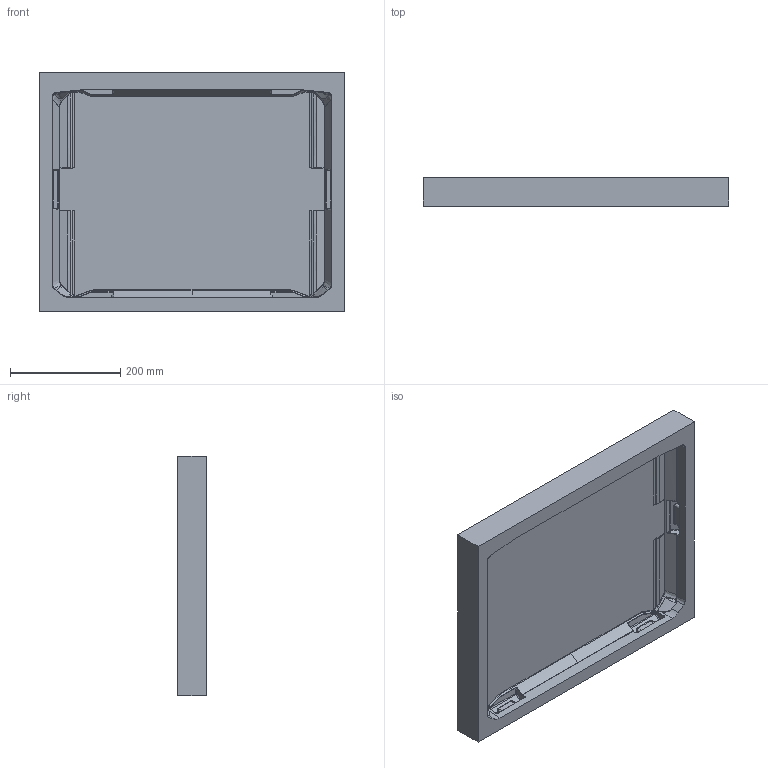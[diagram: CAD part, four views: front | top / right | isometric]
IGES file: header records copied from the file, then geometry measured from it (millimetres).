
Start section: SolidWorks IGES file using analytic representation for surfaces
Global section: file name: C:\Users\chad.chaiyont\My Project\Vault Case\Vault TOR\Vault CAD\PP PID cad\V550 PP\V550 PP tubs\V550 PP TOP TUB 2-4-2024.IGS; native system: SolidWorks 2021; preprocessor: SolidWorks 2021; author: Chad.Chaiyont; date: 240211.201831; units: millimetre
Bounding box: 555.59 x 52.14 x 435.03 mm (x, y, z)
Surface area: 652808.2 mm2 (no closed solid volume)
Topology: 0 solids, 0 shells, 702 faces, 3730 edges, 3706 vertices
Faces by surface type: bspline 702
